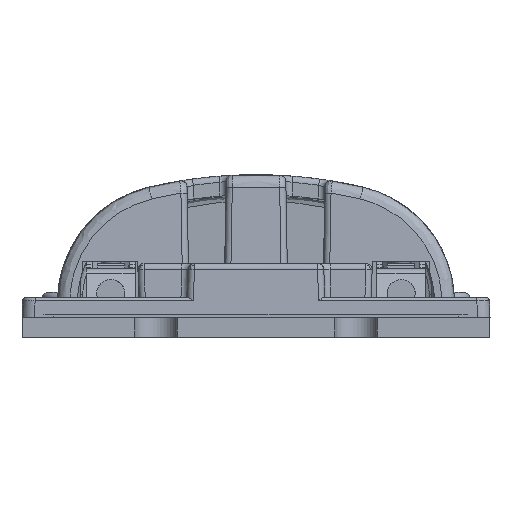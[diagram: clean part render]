
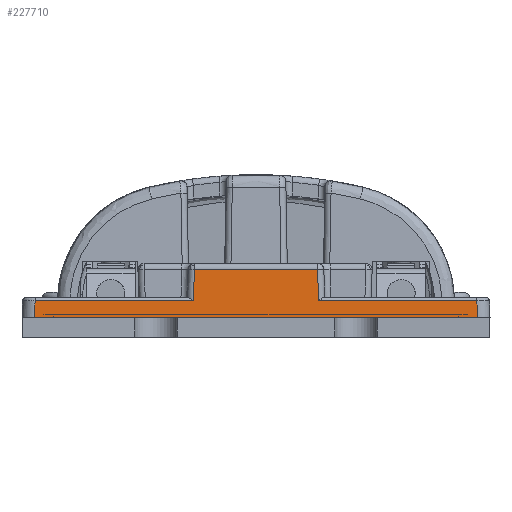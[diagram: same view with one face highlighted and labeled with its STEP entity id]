
A CAD part, left-side view. The second image highlights one B-rep face of the part: STEP entity #227710.
In plain terms, the highlighted planar face has unit normal (-0.999, 0, 0.035) as drawn and (0.999, 0.035, -0.001) by its records, which use the part's own axes.
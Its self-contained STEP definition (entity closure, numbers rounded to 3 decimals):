
#86060=CARTESIAN_POINT('',(28.886,179.086,
0.183));
#86070=DIRECTION('',(0.035,-0.999,
0.035));
#86080=VECTOR('',#86070,1.);
#86090=LINE('',#86060,#86080);
#86100=CARTESIAN_POINT('',(27.847,208.82,
-0.855));
#86110=VERTEX_POINT('',#86100);
#86120=CARTESIAN_POINT('',(27.935,206.313,
-0.767));
#86130=VERTEX_POINT('',#86120);
#86140=EDGE_CURVE('',#86110,#86130,#86090,.T.);
#153600=CARTESIAN_POINT('',(27.984,205.003,
3.923));
#153610=VERTEX_POINT('',#153600);
#153640=CARTESIAN_POINT('',(28.007,205.003,
31.707));
#153650=DIRECTION('',(-0.001,0.,
-1.));
#153660=VECTOR('',#153650,1.);
#153670=LINE('',#153640,#153660);
#153680=CARTESIAN_POINT('',(27.982,205.003,
0.523));
#153690=VERTEX_POINT('',#153680);
#153700=EDGE_CURVE('',#153610,#153690,#153670,.T.);
#154180=CARTESIAN_POINT('',(27.971,205.003,
-12.077));
#154190=VERTEX_POINT('',#154180);
#154220=CARTESIAN_POINT('',(27.968,205.003,
-15.477));
#154230=VERTEX_POINT('',#154220);
#154240=EDGE_CURVE('',#154190,#154230,#153670,.T.);
#226710=CARTESIAN_POINT('',(28.007,205.003,
31.707));
#226720=DIRECTION('',(0.999,0.035,
-0.001));
#226730=DIRECTION('',(-0.035,0.999,
0.));
#226740=AXIS2_PLACEMENT_3D('',#226710,#226720,#226730);
#226750=PLANE('',#226740);
#226760=CARTESIAN_POINT('',(28.865,179.104,
-24.38));
#226770=DIRECTION('',(0.035,-0.999,
-0.035));
#226780=VECTOR('',#226770,1.);
#226790=LINE('',#226760,#226780);
#226800=CARTESIAN_POINT('',(27.916,206.313,
-23.429));
#226810=VERTEX_POINT('',#226800);
#226820=CARTESIAN_POINT('',(27.962,205.005,
-23.475));
#226830=VERTEX_POINT('',#226820);
#226840=EDGE_CURVE('',#226810,#226830,#226790,.T.);
#226850=ORIENTED_EDGE('',*,*,#226840,.F.);
#226860=CARTESIAN_POINT('',(28.007,205.005,
31.712));
#226870=DIRECTION('',(0.001,0.,
1.));
#226880=VECTOR('',#226870,1.);
#226890=LINE('',#226860,#226880);
#226900=CARTESIAN_POINT('',(27.968,205.005,
-15.477));
#226910=VERTEX_POINT('',#226900);
#226920=EDGE_CURVE('',#226830,#226910,#226890,.T.);
#226930=ORIENTED_EDGE('',*,*,#226920,.F.);
#226940=CARTESIAN_POINT('',(28.874,179.069,
-15.476));
#226950=DIRECTION('',(-0.035,0.999,
0.));
#226960=VECTOR('',#226950,1.);
#226970=LINE('',#226940,#226960);
#226980=EDGE_CURVE('',#154230,#226910,#226970,.T.);
#226990=ORIENTED_EDGE('',*,*,#226980,.T.);
#227000=ORIENTED_EDGE('',*,*,#154240,.T.);
#227010=CARTESIAN_POINT('',(28.877,179.069,
-12.078));
#227020=DIRECTION('',(0.035,-0.999,
0.));
#227030=VECTOR('',#227020,1.);
#227040=LINE('',#227010,#227030);
#227050=CARTESIAN_POINT('',(27.971,205.005,
-12.077));
#227060=VERTEX_POINT('',#227050);
#227070=EDGE_CURVE('',#227060,#154190,#227040,.T.);
#227080=ORIENTED_EDGE('',*,*,#227070,.T.);
#227090=CARTESIAN_POINT('',(27.981,205.005,
0.523));
#227100=VERTEX_POINT('',#227090);
#227110=EDGE_CURVE('',#227060,#227100,#226890,.T.);
#227120=ORIENTED_EDGE('',*,*,#227110,.F.);
#227130=CARTESIAN_POINT('',(28.887,179.069,
0.524));
#227140=DIRECTION('',(-0.035,0.999,
0.));
#227150=VECTOR('',#227140,1.);
#227160=LINE('',#227130,#227150);
#227170=EDGE_CURVE('',#153690,#227100,#227160,.T.);
#227180=ORIENTED_EDGE('',*,*,#227170,.T.);
#227190=ORIENTED_EDGE('',*,*,#153700,.T.);
#227200=CARTESIAN_POINT('',(28.89,179.069,
3.922));
#227210=DIRECTION('',(0.035,-0.999,
0.));
#227220=VECTOR('',#227210,1.);
#227230=LINE('',#227200,#227220);
#227240=CARTESIAN_POINT('',(27.984,205.005,
3.923));
#227250=VERTEX_POINT('',#227240);
#227260=EDGE_CURVE('',#227250,#153610,#227230,.T.);
#227270=ORIENTED_EDGE('',*,*,#227260,.T.);
#227280=CARTESIAN_POINT('',(27.991,205.005,
11.926));
#227290=VERTEX_POINT('',#227280);
#227300=EDGE_CURVE('',#227250,#227290,#226890,.T.);
#227310=ORIENTED_EDGE('',*,*,#227300,.F.);
#227320=CARTESIAN_POINT('',(28.896,179.104,
12.83));
#227330=DIRECTION('',(-0.035,0.999,
-0.035));
#227340=VECTOR('',#227330,1.);
#227350=LINE('',#227320,#227340);
#227360=CARTESIAN_POINT('',(27.945,206.313,
11.88));
#227370=VERTEX_POINT('',#227360);
#227380=EDGE_CURVE('',#227290,#227370,#227350,.T.);
#227390=ORIENTED_EDGE('',*,*,#227380,.F.);
#227400=CARTESIAN_POINT('',(27.961,206.313,
31.712));
#227410=DIRECTION('',(0.001,0.,
1.));
#227420=VECTOR('',#227410,1.);
#227430=LINE('',#227400,#227420);
#227440=EDGE_CURVE('',#86130,#227370,#227430,.T.);
#227450=ORIENTED_EDGE('',*,*,#227440,.T.);
#227460=ORIENTED_EDGE('',*,*,#86140,.T.);
#227470=CARTESIAN_POINT('',(27.874,208.82,
31.707));
#227480=DIRECTION('',(-0.001,0.,
-1.));
#227490=VECTOR('',#227480,1.);
#227500=LINE('',#227470,#227490);
#227510=CARTESIAN_POINT('',(27.839,208.82,
-10.694));
#227520=VERTEX_POINT('',#227510);
#227530=EDGE_CURVE('',#86110,#227520,#227500,.T.);
#227540=ORIENTED_EDGE('',*,*,#227530,.F.);
#227550=CARTESIAN_POINT('',(28.876,179.086,
-11.733));
#227560=DIRECTION('',(-0.035,0.999,
0.035));
#227570=VECTOR('',#227560,1.);
#227580=LINE('',#227550,#227570);
#227590=CARTESIAN_POINT('',(27.926,206.313,
-10.781));
#227600=VERTEX_POINT('',#227590);
#227610=EDGE_CURVE('',#227600,#227520,#227580,.T.);
#227620=ORIENTED_EDGE('',*,*,#227610,.T.);
#227630=CARTESIAN_POINT('',(27.961,206.313,
31.712));
#227640=DIRECTION('',(0.001,0.,
1.));
#227650=VECTOR('',#227640,1.);
#227660=LINE('',#227630,#227650);
#227670=EDGE_CURVE('',#226810,#227600,#227660,.T.);
#227680=ORIENTED_EDGE('',*,*,#227670,.T.);
#227690=EDGE_LOOP('',(#227680,#227620,#227540,#227460,#227450,#227390,
#227310,#227270,#227190,#227180,#227120,#227080,#227000,#226990,#226930,
#226850));
#227700=FACE_OUTER_BOUND('',#227690,.T.);
#227710=ADVANCED_FACE('',(#227700),#226750,.T.);
